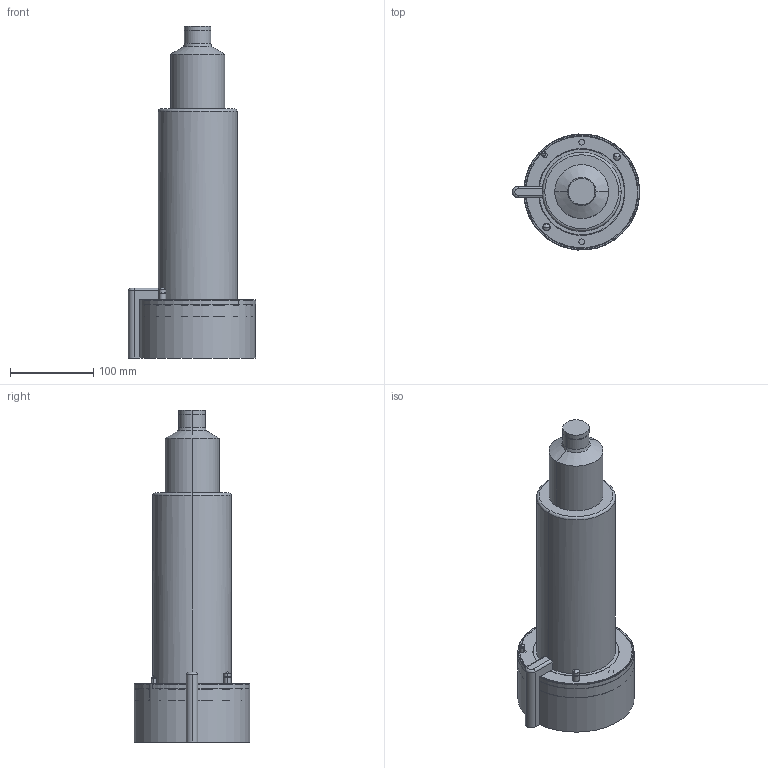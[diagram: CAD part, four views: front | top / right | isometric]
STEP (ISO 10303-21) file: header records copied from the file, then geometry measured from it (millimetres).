
FILE_DESCRIPTION (( 'STEP AP214' ), '1' );
FILE_NAME ('SB24B_CLSOED_A350.STEP', '2009-07-28T15:09:03', ( 'Synventive Molding Solutions' ), ( 'Synventive Molding Solutions' ), 'SwSTEP 2.0', 'SolidWorks 2008', '' );
FILE_SCHEMA (( 'AUTOMOTIVE_DESIGN' ));
Length unit declared in the file: millimetre
Products named in the file (1): SB24B_CLSOED_A350
Bounding box: 153.29 x 139.67 x 400 mm (x, y, z)
Volume: 4367210.6 mm3; surface area: 363847.7 mm2
Topology: 10 solids, 15 shells, 663 faces, 1609 edges, 1002 vertices
Faces by surface type: cylinder 259, plane 241, torus 83, cone 70, sphere 6, bspline 4
Entity records: 28975 total; most frequent: CARTESIAN_POINT 5828, DIRECTION 3445, ORIENTED_EDGE 3182, EDGE_CURVE 1591, AXIS2_PLACEMENT_3D 1353, VERTEX_POINT 1002, VECTOR 739, LINE 739
